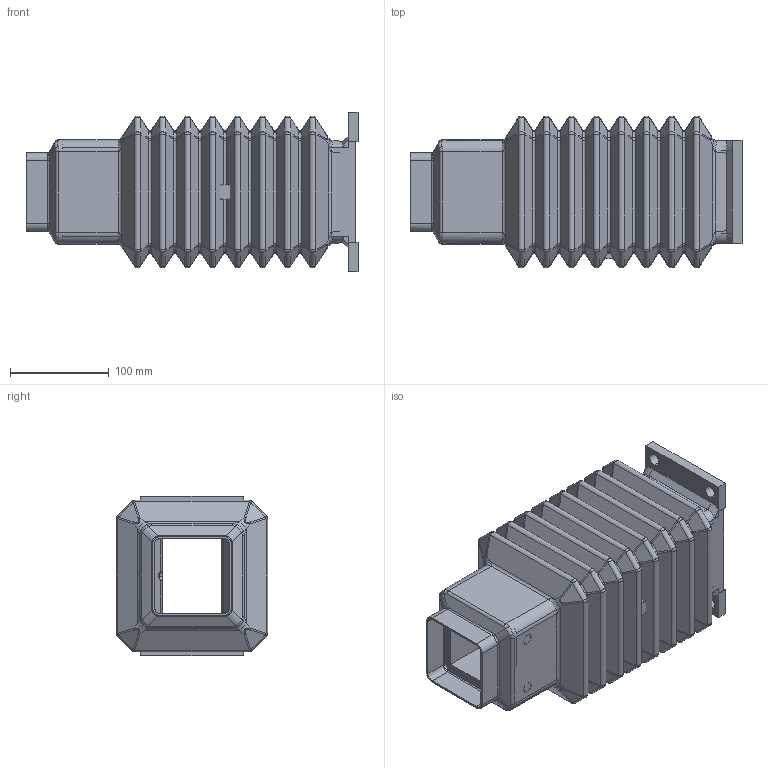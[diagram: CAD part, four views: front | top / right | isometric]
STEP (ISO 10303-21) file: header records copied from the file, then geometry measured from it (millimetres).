
FILE_DESCRIPTION((''),'2;1');
FILE_NAME('1016473000_ASM','2024-10-23T07:49:30',('Stephanie.Hoppe'),(''),'CREO PARAMETRIC BY PTC INC, 2022124','CREO PARAMETRIC BY PTC INC, 2022124','');
FILE_SCHEMA(('AUTOMOTIVE_DESIGN { 1 0 10303 214 1 1 1 1 }'));
Products named in the file (29): 9511000250; 9511000249; 9511000248; 9511000209_SCHWEISSNAHT; 9511000209_SCHWEISSNAHT_3; 9511000251; 9511000209_SCHWEISSNAHT_2; 9511000209_ASM; 9502382000; 9511000242; 9511000243; 9511000244; 9511000153_SCHWEISSNAHT2; 9511000153_SCHWEISSNAHT1; 9511000153_ASM; 9502384000; 9502385000_1; 9502385000_2; 9502385000_ASM; 9502383000; 9502381000; 9262017000; 9261140000; 9263045000; 9263195000; 9258075000; 9805201000_ASM; 9231650000; 1016473000_ASM
Assembly tree (44 placements, depth 4):
  1016473000_ASM
    9805201000_ASM
      9511000209_ASM
        9511000250  x2
        9511000249
        9511000248
        9511000209_SCHWEISSNAHT  x2
        9511000209_SCHWEISSNAHT_3  x2
        9511000251  x2
        9511000209_SCHWEISSNAHT_2  x2
      9502382000  x2
      9511000153_ASM
        9511000242
        9511000243
        9511000244  x2
        9511000153_SCHWEISSNAHT2  x2
        9511000153_SCHWEISSNAHT1  x2
      9502384000  x2
      9502385000_ASM  x2
        9502385000_1
        9502385000_2
      9502383000
      9502381000
      9262017000
      9261140000
      9263045000  x6
      9263195000
      9258075000
    9231650000
Bounding box: 337 x 154 x 162.2 mm (x, y, z)
Volume: 1544189.1 mm3; surface area: 790859.1 mm2
Topology: 41 solids, 57 shells, 1897 faces, 4206 edges, 2423 vertices
Faces by surface type: cylinder 772, plane 727, bspline 184, sphere 130, cone 82, torus 2
Entity records: 86949 total; most frequent: CARTESIAN_POINT 20805, DIRECTION 8587, ORIENTED_EDGE 7428, PRESENTATION_STYLE_ASSIGNMENT 4099, STYLED_ITEM 3880, CURVE_STYLE 3861, EDGE_CURVE 3736, AXIS2_PLACEMENT_3D 3120
